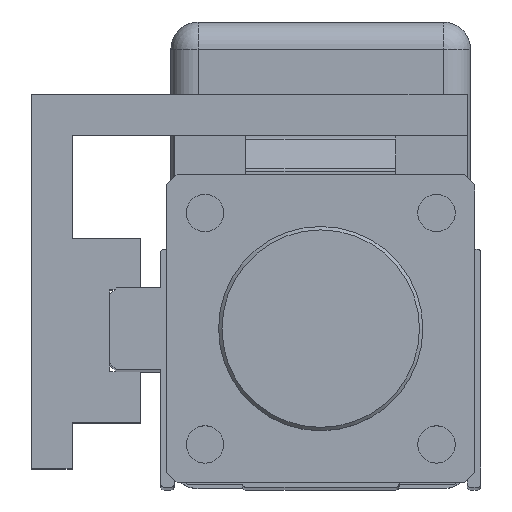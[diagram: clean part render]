
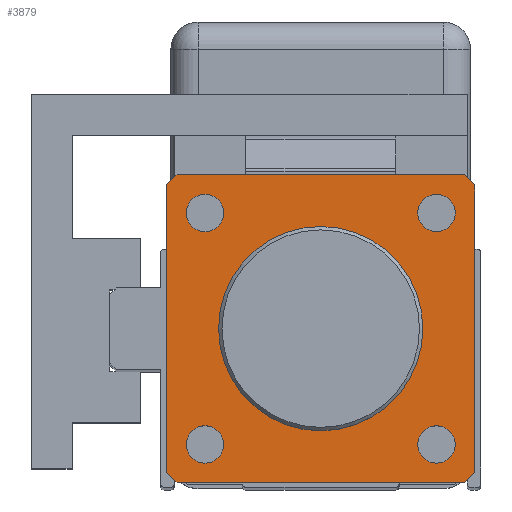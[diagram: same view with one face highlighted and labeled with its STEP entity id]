
A CAD part, top view. The second image highlights one B-rep face of the part: STEP entity #3879.
In plain terms, the highlighted planar face has unit normal (0, 0, 1).
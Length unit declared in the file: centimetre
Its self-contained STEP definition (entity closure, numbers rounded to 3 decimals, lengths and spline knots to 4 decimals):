
#513=VECTOR('',#4923,1.);
#516=VECTOR('',#4927,1.);
#518=VECTOR('',#4930,1.);
#521=VECTOR('',#4934,1.);
#524=VECTOR('',#4938,1.);
#527=VECTOR('',#4942,1.);
#531=VECTOR('',#4947,1.);
#534=VECTOR('',#4951,1.);
#821=LINE('',#6059,#513);
#824=LINE('',#6065,#516);
#826=LINE('',#6069,#518);
#829=LINE('',#6075,#521);
#832=LINE('',#6080,#524);
#835=LINE('',#6087,#527);
#839=LINE('',#6095,#531);
#842=LINE('',#6100,#534);
#1054=CIRCLE('',#4180,1.5);
#1067=CIRCLE('',#4204,0.275);
#1069=CIRCLE('',#4207,0.275);
#1070=CIRCLE('',#4209,0.275);
#1071=CIRCLE('',#4211,0.275);
#1407=VERTEX_POINT('',#6001);
#1434=VERTEX_POINT('',#6060);
#1435=VERTEX_POINT('',#6061);
#1436=VERTEX_POINT('',#6066);
#1437=VERTEX_POINT('',#6070);
#1439=VERTEX_POINT('',#6076);
#1440=VERTEX_POINT('',#6081);
#1443=VERTEX_POINT('',#6088);
#1446=VERTEX_POINT('',#6096);
#1447=VERTEX_POINT('',#6103);
#1449=VERTEX_POINT('',#6108);
#1450=VERTEX_POINT('',#6111);
#1451=VERTEX_POINT('',#6114);
#1851=EDGE_CURVE('',#1407,#1407,#1054,.T.);
#1880=EDGE_CURVE('',#1434,#1435,#821,.T.);
#1883=EDGE_CURVE('',#1435,#1436,#824,.T.);
#1885=EDGE_CURVE('',#1436,#1437,#826,.T.);
#1888=EDGE_CURVE('',#1437,#1439,#829,.T.);
#1891=EDGE_CURVE('',#1439,#1440,#832,.T.);
#1895=EDGE_CURVE('',#1440,#1443,#835,.T.);
#1899=EDGE_CURVE('',#1443,#1446,#839,.T.);
#1902=EDGE_CURVE('',#1446,#1434,#842,.T.);
#1903=EDGE_CURVE('',#1447,#1447,#1067,.T.);
#1905=EDGE_CURVE('',#1449,#1449,#1069,.T.);
#1906=EDGE_CURVE('',#1450,#1450,#1070,.T.);
#1907=EDGE_CURVE('',#1451,#1451,#1071,.T.);
#2709=ORIENTED_EDGE('',*,*,#1851,.T.);
#2710=ORIENTED_EDGE('',*,*,#1907,.F.);
#2711=ORIENTED_EDGE('',*,*,#1906,.F.);
#2712=ORIENTED_EDGE('',*,*,#1905,.F.);
#2713=ORIENTED_EDGE('',*,*,#1903,.F.);
#2714=ORIENTED_EDGE('',*,*,#1880,.F.);
#2715=ORIENTED_EDGE('',*,*,#1902,.F.);
#2716=ORIENTED_EDGE('',*,*,#1899,.F.);
#2717=ORIENTED_EDGE('',*,*,#1895,.F.);
#2718=ORIENTED_EDGE('',*,*,#1891,.F.);
#2719=ORIENTED_EDGE('',*,*,#1888,.F.);
#2720=ORIENTED_EDGE('',*,*,#1885,.F.);
#2721=ORIENTED_EDGE('',*,*,#1883,.F.);
#3328=EDGE_LOOP('',(#2709));
#3329=EDGE_LOOP('',(#2710));
#3330=EDGE_LOOP('',(#2711));
#3331=EDGE_LOOP('',(#2712));
#3332=EDGE_LOOP('',(#2713));
#3333=EDGE_LOOP('',(#2714,#2715,#2716,#2717,#2718,#2719,#2720,#2721));
#3641=FACE_BOUND('',#3328,.T.);
#3642=FACE_BOUND('',#3329,.T.);
#3643=FACE_BOUND('',#3330,.T.);
#3644=FACE_BOUND('',#3331,.T.);
#3645=FACE_BOUND('',#3332,.T.);
#3646=FACE_BOUND('',#3333,.T.);
#3879=ADVANCED_FACE('',(#3641,#3642,#3643,#3644,#3645,#3646),#6483,.T.);
#4180=AXIS2_PLACEMENT_3D('',#6000,#4878,#4879);
#4204=AXIS2_PLACEMENT_3D('',#6102,#4954,#4955);
#4207=AXIS2_PLACEMENT_3D('',#6107,#4960,#4961);
#4209=AXIS2_PLACEMENT_3D('',#6110,#4964,#4965);
#4211=AXIS2_PLACEMENT_3D('',#6113,#4968,#4969);
#4212=AXIS2_PLACEMENT_3D('',#6115,#4970,$);
#4878=DIRECTION('',(0.,0.,-1.));
#4879=DIRECTION('',(1.5,0.,0.));
#4923=DIRECTION('',(1.,0.,0.));
#4927=DIRECTION('',(0.707,-0.707,0.));
#4930=DIRECTION('',(0.,-1.,0.));
#4934=DIRECTION('',(-0.707,-0.707,0.));
#4938=DIRECTION('',(-1.,0.,0.));
#4942=DIRECTION('',(-0.707,0.707,0.));
#4947=DIRECTION('',(0.,1.,0.));
#4951=DIRECTION('',(0.707,0.707,0.));
#4954=DIRECTION('',(0.,0.,1.));
#4955=DIRECTION('',(0.275,0.,0.));
#4960=DIRECTION('',(0.,0.,1.));
#4961=DIRECTION('',(0.275,0.,0.));
#4964=DIRECTION('',(0.,0.,1.));
#4965=DIRECTION('',(0.275,0.,0.));
#4968=DIRECTION('',(0.,0.,1.));
#4969=DIRECTION('',(0.275,0.,0.));
#4970=DIRECTION('',(0.,0.,1.));
#6000=CARTESIAN_POINT('',(0.,0.,23.));
#6001=CARTESIAN_POINT('',(1.5,0.,23.));
#6059=CARTESIAN_POINT('',(2.11,2.26,23.));
#6060=CARTESIAN_POINT('',(-2.11,2.26,23.));
#6061=CARTESIAN_POINT('',(2.11,2.26,23.));
#6065=CARTESIAN_POINT('',(2.26,2.11,23.));
#6066=CARTESIAN_POINT('',(2.26,2.11,23.));
#6069=CARTESIAN_POINT('',(2.26,-2.11,23.));
#6070=CARTESIAN_POINT('',(2.26,-2.11,23.));
#6075=CARTESIAN_POINT('',(2.11,-2.26,23.));
#6076=CARTESIAN_POINT('',(2.11,-2.26,23.));
#6080=CARTESIAN_POINT('',(-2.11,-2.26,23.));
#6081=CARTESIAN_POINT('',(-2.11,-2.26,23.));
#6087=CARTESIAN_POINT('',(-2.26,-2.11,23.));
#6088=CARTESIAN_POINT('',(-2.26,-2.11,23.));
#6095=CARTESIAN_POINT('',(-2.26,2.11,23.));
#6096=CARTESIAN_POINT('',(-2.26,2.11,23.));
#6100=CARTESIAN_POINT('',(-2.11,2.26,23.));
#6102=CARTESIAN_POINT('',(-1.7,-1.7,23.));
#6103=CARTESIAN_POINT('',(-1.425,-1.7,23.));
#6107=CARTESIAN_POINT('',(-1.7,1.7,23.));
#6108=CARTESIAN_POINT('',(-1.425,1.7,23.));
#6110=CARTESIAN_POINT('',(1.7,1.7,23.));
#6111=CARTESIAN_POINT('',(1.975,1.7,23.));
#6113=CARTESIAN_POINT('',(1.7,-1.7,23.));
#6114=CARTESIAN_POINT('',(1.975,-1.7,23.));
#6115=CARTESIAN_POINT('',(0.,0.,23.));
#6483=PLANE('',#4212);
